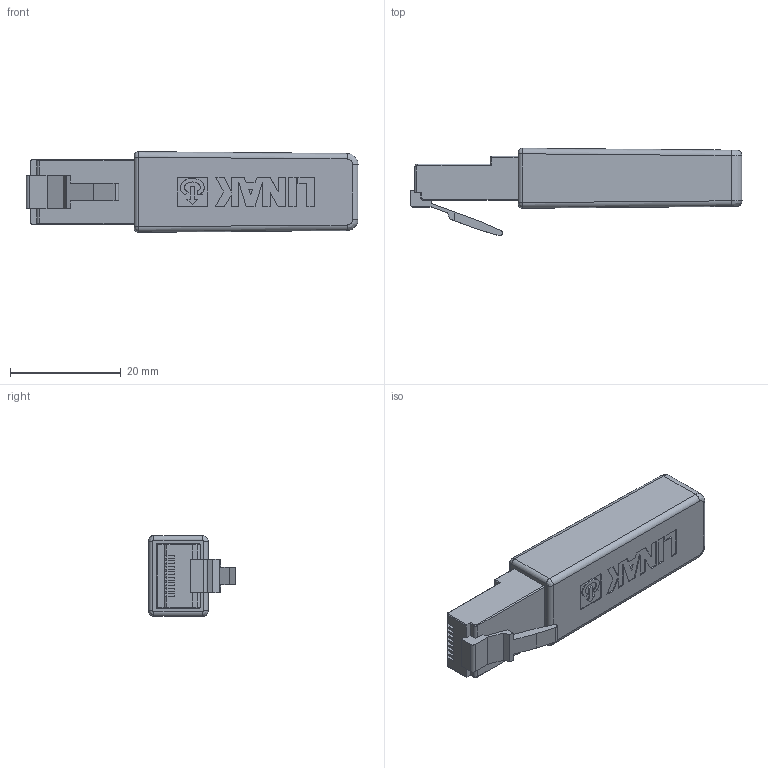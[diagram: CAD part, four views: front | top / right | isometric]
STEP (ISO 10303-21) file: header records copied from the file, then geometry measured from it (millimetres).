
FILE_DESCRIPTION((''),'2;1');
FILE_NAME('123','2016-02-17T',('jebi'),(''),'CREO PARAMETRIC BY PTC INC, 2014500','CREO PARAMETRIC BY PTC INC, 2014500','');
FILE_SCHEMA(('CONFIG_CONTROL_DESIGN'));
Length unit declared in the file: millimetre
Products named in the file (1): 123
Bounding box: 60.05 x 15.8 x 14.59 mm (x, y, z)
Volume: 7399.4 mm3; surface area: 3303.9 mm2
Topology: 1 solids, 1 shells, 237 faces, 628 edges, 402 vertices
Faces by surface type: plane 158, cylinder 55, bspline 12, sphere 6, torus 4, extrusion 2
Entity records: 12480 total; most frequent: CARTESIAN_POINT 1755, ORIENTED_EDGE 1256, DIRECTION 1160, PRESENTATION_STYLE_ASSIGNMENT 868, STYLED_ITEM 631, CURVE_STYLE 630, EDGE_CURVE 628, VECTOR 498
